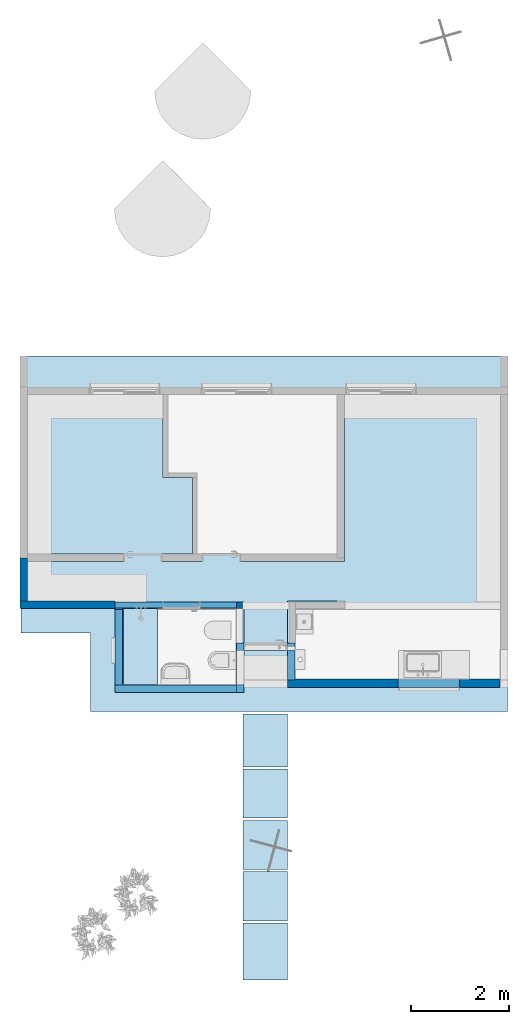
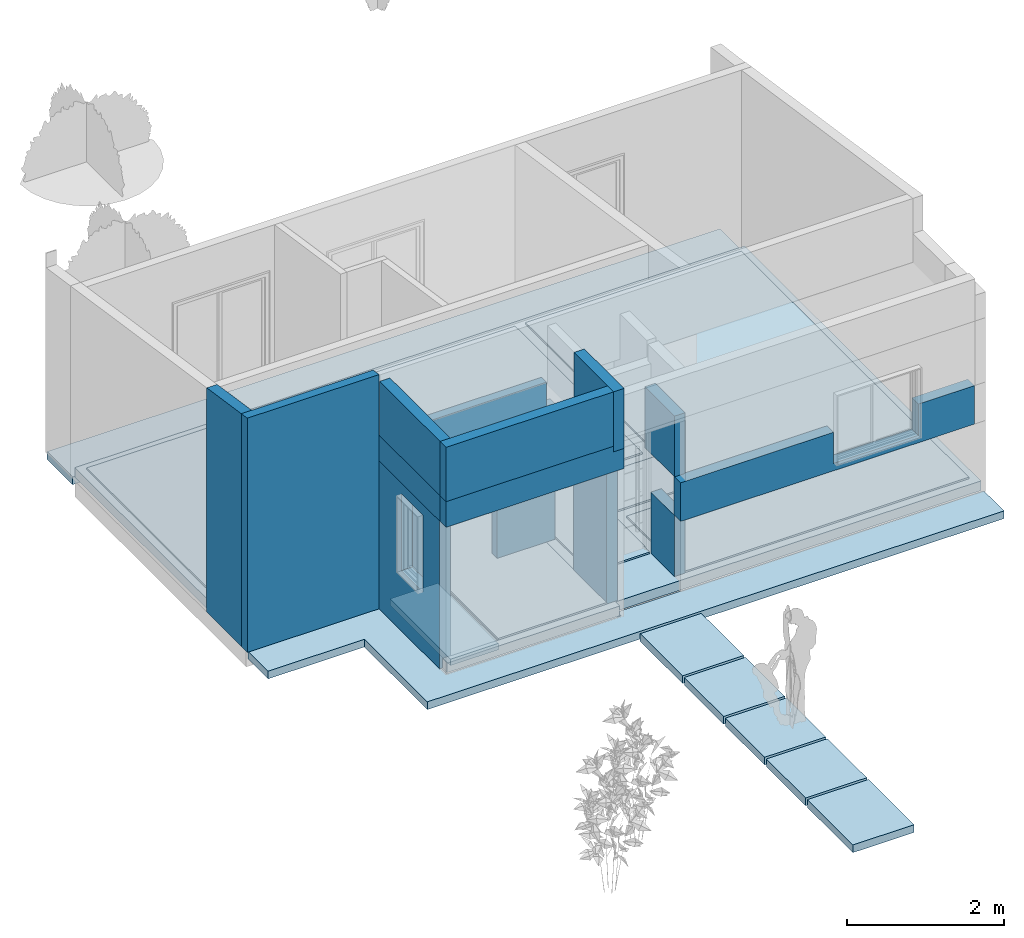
# One storey, part 1 of 8: 14 walls, 11 slabs, 5 openings.
"""IFC2X3 building model written with IfcOpenShell, lengths in metres."""

from ifc_helpers import new_model, entity, si_unit, converted_unit, derived_unit, direction, frame, frame_2d, origin, origin_2d_with_axis, place, context, subcontext, project, spatial, polyline, rectangle, outline, extrude, clip, bounded_halfspace, material, layer, layer_set, layer_usage, type_object, element, save


model = new_model("IFC2X3")

# Units and contexts
model_context = context("Model", 3, precision=1e-05, world=origin(), true_north=direction((6.12303176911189e-17, 1.0)))
body_context = subcontext(model_context, "Body", "Model", "MODEL_VIEW")
ifc_project = project(units=[si_unit("LENGTHUNIT", "METRE"), si_unit("AREAUNIT", "SQUARE_METRE"), si_unit("VOLUMEUNIT", "CUBIC_METRE"), converted_unit("PLANEANGLEUNIT", "DEGREE", entity("IfcRatioMeasure", 0.0174532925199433), si_unit("PLANEANGLEUNIT", "RADIAN"), dimensions=[0, 0, 0, 0, 0, 0, 0]), si_unit("MASSUNIT", "GRAM", prefix="KILO"), derived_unit("MASSDENSITYUNIT", [(si_unit("MASSUNIT", "GRAM", prefix="KILO"), 1), (si_unit("LENGTHUNIT", "METRE"), -3)]), si_unit("TIMEUNIT", "SECOND"), si_unit("FREQUENCYUNIT", "HERTZ"), si_unit("THERMODYNAMICTEMPERATUREUNIT", "DEGREE_CELSIUS"), derived_unit("THERMALTRANSMITTANCEUNIT", [(si_unit("MASSUNIT", "GRAM", prefix="KILO"), 1), (si_unit("THERMODYNAMICTEMPERATUREUNIT", "KELVIN"), -1), (si_unit("TIMEUNIT", "SECOND"), -3)]), derived_unit("VOLUMETRICFLOWRATEUNIT", [(si_unit("LENGTHUNIT", "METRE"), 3), (si_unit("TIMEUNIT", "SECOND"), -1)]), si_unit("ELECTRICCURRENTUNIT", "AMPERE"), si_unit("ELECTRICVOLTAGEUNIT", "VOLT"), si_unit("POWERUNIT", "WATT"), si_unit("FORCEUNIT", "NEWTON", prefix="KILO"), si_unit("ILLUMINANCEUNIT", "LUX"), si_unit("LUMINOUSFLUXUNIT", "LUMEN"), si_unit("LUMINOUSINTENSITYUNIT", "CANDELA"), derived_unit("USERDEFINED", [(si_unit("MASSUNIT", "GRAM", prefix="KILO"), -1), (si_unit("LENGTHUNIT", "METRE"), -2), (si_unit("TIMEUNIT", "SECOND"), 3), (si_unit("LUMINOUSFLUXUNIT", "LUMEN"), 1)]), derived_unit("LINEARVELOCITYUNIT", [(si_unit("LENGTHUNIT", "METRE"), 1), (si_unit("TIMEUNIT", "SECOND"), -1)]), si_unit("PRESSUREUNIT", "PASCAL"), derived_unit("USERDEFINED", [(si_unit("LENGTHUNIT", "METRE"), -2), (si_unit("MASSUNIT", "GRAM", prefix="KILO"), 1), (si_unit("TIMEUNIT", "SECOND"), -2)])], contexts=[model_context])

# Site, building, storey
site_placement = place(None, origin())
site = spatial("IfcSite", under=ifc_project, at=site_placement, Name="Surface", CompositionType="ELEMENT")
building_placement = place(site_placement, origin())
building = spatial("IfcBuilding", under=site, at=building_placement, CompositionType="ELEMENT")
storey_placement = place(building_placement, origin())
storey = spatial("IfcBuildingStorey", under=building, at=storey_placement, Name="Nivel 0.0", CompositionType="ELEMENT", Elevation=0.0)

# Slabs
ifc_material_1 = material(Name="Hormigón Armado veredines")
ifc_layer_1 = layer(ifc_material_1, 0.12)
ifc_layer_set_1 = layer_set([ifc_layer_1], Name="Floor:Vereda de acceso")
ifc_layer_usage_1 = layer_usage(ifc_layer_set_1, "AXIS3", "POSITIVE", 0.0)
slab_type_1 = type_object("IfcSlabType", Name="Floor:Vereda de acceso", PredefinedType="FLOOR")
slab_1_placement = place(storey_placement, frame((-4.45239657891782, -9.37555428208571, -0.295816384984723)))
element("IfcSlab", 1, at=slab_1_placement, inside=storey, type_object=slab_type_1, material=ifc_layer_usage_1, Name="Floor:Vereda de acceso", ObjectType="Floor:Vereda de acceso", PredefinedType="FLOOR", context=body_context, shape_type="SweptSolid", body=[
    extrude(rectangle(XDim=1.08170587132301, YDim=0.899499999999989, at=frame_2d((0.0, 2.16863474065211), x_axis=(0.0, -1.0))), frame((0.449749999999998, 2.70948767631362, 0.12), z_axis=(0.0, 0.0, -1.0), x_axis=(-1.0, 0.0, 0.0)), (0.0, 0.0, 1.0), 0.12),
])
slab_type_2 = type_object("IfcSlabType", Name="Floor:Vereda de acceso", PredefinedType="FLOOR")
slab_2_placement = place(storey_placement, frame((-4.45239657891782, -9.37555428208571, -0.295816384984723)))
element("IfcSlab", 2, at=slab_2_placement, inside=storey, type_object=slab_type_2, material=ifc_layer_usage_1, Name="Floor:Vereda de acceso:2", ObjectType="Floor:Vereda de acceso", PredefinedType="FLOOR", context=body_context, shape_type="SweptSolid", body=[
    extrude(rectangle(XDim=1.00170587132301, YDim=0.899499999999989, at=frame_2d((0.0, 1.08431737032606), x_axis=(0.0, -1.0))), frame((0.449749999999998, 2.70948767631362, 0.12), z_axis=(0.0, 0.0, -1.0), x_axis=(-1.0, 0.0, 0.0)), (0.0, 0.0, 1.0), 0.12),
])
slab_type_3 = type_object("IfcSlabType", Name="Floor:Vereda de acceso", PredefinedType="FLOOR")
slab_3_placement = place(storey_placement, frame((-4.45239657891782, -9.37555428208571, -0.295816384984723)))
element("IfcSlab", 3, at=slab_3_placement, inside=storey, type_object=slab_type_3, material=ifc_layer_usage_1, Name="Floor:Vereda de acceso:3", ObjectType="Floor:Vereda de acceso", PredefinedType="FLOOR", context=body_context, shape_type="SweptSolid", body=[
    extrude(rectangle(XDim=1.00170587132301, YDim=0.899499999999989, at=frame_2d((0.0, 0.0399999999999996), x_axis=(0.0, -1.0))), frame((0.449749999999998, 2.70948767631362, 0.12), z_axis=(0.0, 0.0, -1.0), x_axis=(-1.0, 0.0, 0.0)), (0.0, 0.0, 1.0), 0.12),
])
slab_type_4 = type_object("IfcSlabType", Name="Floor:Vereda de acceso", PredefinedType="FLOOR")
slab_4_placement = place(storey_placement, frame((-4.45239657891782, -9.37555428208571, -0.295816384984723)))
element("IfcSlab", 4, at=slab_4_placement, inside=storey, type_object=slab_type_4, material=ifc_layer_usage_1, Name="Floor:Vereda de acceso:4", ObjectType="Floor:Vereda de acceso", PredefinedType="FLOOR", context=body_context, shape_type="SweptSolid", body=[
    extrude(rectangle(XDim=1.00170587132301, YDim=0.899499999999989, at=frame_2d((0.0, -1.00431737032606), x_axis=(0.0, -1.0))), frame((0.449749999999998, 2.70948767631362, 0.12), z_axis=(0.0, 0.0, -1.0), x_axis=(-1.0, 0.0, 0.0)), (0.0, 0.0, 1.0), 0.12),
])
slab_type_5 = type_object("IfcSlabType", Name="Floor:Vereda de acceso", PredefinedType="FLOOR", material=ifc_layer_set_1)
slab_5_placement = place(storey_placement, frame((-4.45239657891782, -9.37555428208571, -0.295816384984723)))
element("IfcSlab", 5, at=slab_5_placement, inside=storey, type_object=slab_type_5, material=ifc_layer_usage_1, Name="Floor:Vereda de acceso:5", ObjectType="Floor:Vereda de acceso", PredefinedType="FLOOR", context=body_context, shape_type="SweptSolid", body=[
    extrude(rectangle(XDim=1.16170587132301, YDim=0.899499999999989, at=frame_2d((0.0, -2.12863474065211), x_axis=(0.0, -1.0))), frame((0.449749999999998, 2.70948767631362, 0.12), z_axis=(0.0, 0.0, -1.0), x_axis=(-1.0, 0.0, 0.0)), (0.0, 0.0, 1.0), 0.12),
])

# Slab, opening
ifc_material_2 = material(Name="Concrete, Cast In Situ")
ifc_layer_2 = layer(ifc_material_2, 0.15)
ifc_layer_set_2 = layer_set([ifc_layer_2], Name="Floor:Platea de fundación")
ifc_layer_usage_2 = layer_usage(ifc_layer_set_2, "AXIS3", "POSITIVE", 0.0)
slab_type_6 = type_object("IfcSlabType", Name="Floor:Platea de fundación", PredefinedType="FLOOR", material=ifc_layer_set_2)
slab_6_placement = place(storey_placement, frame((-8.95308547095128, -3.48078532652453, -0.175)))
slab_6 = element("IfcSlab", 6, at=slab_6_placement, inside=storey, type_object=slab_type_6, material=ifc_layer_usage_2, Name="Floor:Platea de fundación", ObjectType="Floor:Platea de fundación", PredefinedType="FLOOR", context=body_context, shape_type="SweptSolid", body=[
    extrude(outline(polyline([(4.92400000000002, -1.30126337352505), (4.92400000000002, 3.06499999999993), (-4.92400000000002, 3.06499999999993), (-4.92400000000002, -2.96000000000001), (0.451928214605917, -2.96000000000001), (0.451928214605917, -3.06499999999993), (2.98692821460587, -3.06499999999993), (2.98692821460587, -1.30126337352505), (4.92400000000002, -1.30126337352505)])), frame((4.92400000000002, 3.06499999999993, 0.15), z_axis=(0.0, 0.0, -1.0), x_axis=(-1.0, 0.0, 0.0)), (0.0, 0.0, 1.0), 0.15),
])
opening_1_placement = place(slab_6_placement, frame((2.40565159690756, 0.890993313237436, 0.15)))
element("IfcOpeningElement", 7, at=opening_1_placement, cuts=slab_6, Name="Floor:Platea de fundación:2", ObjectType="Opening", context=body_context, shape_type="SweptSolid", body=[
    extrude(rectangle(XDim=0.702659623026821, YDim=1.54748662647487, at=origin_2d_with_axis()), frame((0.0, 0.0, 0.0), z_axis=(0.0, 0.0, -1.0), x_axis=(-1.0, 0.0, 0.0)), (0.0, 0.0, 1.0), 0.15),
])

# Slabs
ifc_layer_3 = layer(ifc_material_1, 0.12)
ifc_layer_set_3 = layer_set([ifc_layer_3], Name="Floor:Veredín perimetral")
ifc_layer_usage_3 = layer_usage(ifc_layer_set_3, "AXIS3", "POSITIVE", 0.0)
slab_type_7 = type_object("IfcSlabType", Name="Floor:Veredín perimetral", PredefinedType="FLOOR")
slab_7_placement = place(storey_placement, frame((-8.97358547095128, -3.91428532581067, -0.295)))
element("IfcSlab", 8, at=slab_7_placement, inside=storey, type_object=slab_type_7, material=ifc_layer_usage_3, Name="Floor:Veredín perimetral", ObjectType="Floor:Veredín perimetral", PredefinedType="FLOOR", context=body_context, shape_type="SweptSolid", body=[
    extrude(outline(polyline([(3.00517821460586, -1.49808207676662), (3.00517821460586, -3.1985687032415), (0.441178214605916, -3.1985687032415), (0.441178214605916, -3.09956870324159), (-4.94825000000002, -3.09956870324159), (-4.94825000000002, -3.61756870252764), (3.53317821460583, -3.61756870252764), (3.53317821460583, -2.01358207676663), (4.94825000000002, -2.01358207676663), (4.94825000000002, -1.49808207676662), (3.00517821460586, -1.49808207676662)])), frame((4.94825000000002, 3.61756870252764, 0.12), z_axis=(0.0, 0.0, -1.0), x_axis=(-1.0, 0.0, 0.0)), (0.0, 0.0, 1.0), 0.12),
])
slab_type_8 = type_object("IfcSlabType", Name="Floor:Veredín perimetral", PredefinedType="FLOOR", material=ifc_layer_set_3)
slab_8_placement = place(storey_placement, frame((-8.97358547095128, -3.91428532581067, -0.295)))
element("IfcSlab", 9, at=slab_8_placement, inside=storey, type_object=slab_type_8, material=ifc_layer_usage_3, Name="Floor:Veredín perimetral:2", ObjectType="Floor:Veredín perimetral", PredefinedType="FLOOR", context=body_context, shape_type="SweptSolid", body=[
    extrude(rectangle(XDim=0.651137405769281, YDim=9.89650000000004, at=frame_2d((0.0, 3.291999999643), x_axis=(0.0, -1.0))), frame((4.94825000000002, 3.61756870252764, 0.12), z_axis=(0.0, 0.0, -1.0), x_axis=(-1.0, 0.0, 0.0)), (0.0, 0.0, 1.0), 0.12),
])
ifc_material_3 = material(Name="Ceramic Tile")
ifc_layer_4 = layer(ifc_material_3, 0.01)
ifc_material_4 = material(Name="Concrete, Sand/Cement Screed")
ifc_layer_5 = layer(ifc_material_4, 0.015)
ifc_layer_set_4 = layer_set([ifc_layer_4, ifc_layer_5], Name="Floor:Piso Cerámico")
ifc_layer_usage_4 = layer_usage(ifc_layer_set_4, "AXIS3", "POSITIVE", 0.0)
slab_type_9 = type_object("IfcSlabType", Name="Floor:Piso Cerámico", PredefinedType="FLOOR", material=ifc_layer_set_4)
slab_9_placement = place(storey_placement, origin())
element("IfcSlab", 10, at=slab_9_placement, inside=storey, type_object=slab_type_9, material=ifc_layer_usage_4, Name="Floor:Piso Cerámico", ObjectType="Floor:Piso Cerámico", PredefinedType="FLOOR", context=body_context, shape_type="SweptSolid", body=[
    extrude(outline(polyline([(-0.774524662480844, -3.99186514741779), (0.0455518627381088, -3.99186514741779), (0.0455518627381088, -2.03636527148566), (0.200051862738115, -2.03636527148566), (0.200051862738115, -3.99186514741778), (3.44273871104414, -3.99186514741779), (3.44273871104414, -1.23111527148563), (1.75648842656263, -1.23111527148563), (1.75648842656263, -0.633615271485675), (0.200051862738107, -0.633615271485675), (0.200051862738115, -1.25636527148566), (0.0455518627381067, -1.25636527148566), (0.0455518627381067, -0.436365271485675), (0.200051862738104, -0.436365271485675), (0.200051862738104, -0.539115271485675), (1.85098842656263, -0.539115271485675), (1.85098842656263, -1.13661527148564), (3.44273871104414, -1.13661527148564), (3.44273871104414, 2.30750183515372), (0.200051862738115, 2.30750183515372), (0.200051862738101, 0.343634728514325), (0.0455518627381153, 0.343634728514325), (0.0455518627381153, 2.46200183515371), (3.44273871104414, 2.46200183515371), (3.44273871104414, 5.63513485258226), (-2.3530112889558, 5.63513485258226), (-2.3530112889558, 1.42795663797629), (-0.921774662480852, 1.42795663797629), (-0.921774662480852, 2.46200183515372), (-0.751774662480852, 2.46200183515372), (-0.751774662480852, 1.29545663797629), (-1.61437849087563, 1.29545663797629), (-1.61437849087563, 1.2832066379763), (-1.76087849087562, 1.2832066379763), (-1.76087849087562, 0.433206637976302), (-1.61437849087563, 0.433206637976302), (-1.61437849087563, 0.412206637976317), (-0.774524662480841, 0.412206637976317), (-0.774524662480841, -0.46912680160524), (-0.911024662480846, -0.46912680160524), (-0.911024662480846, 0.254616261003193), (-2.45851128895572, 0.254616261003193), (-2.45851128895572, -1.34538373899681), (-0.937774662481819, -1.34538373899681), (-0.937774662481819, -1.24912680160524), (-0.774524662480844, -1.24912680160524), (-0.774524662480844, -3.99186514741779)])), frame((-4.85072032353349, -0.905024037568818, 0.0), z_axis=(0.0, 0.0, -1.0), x_axis=(0.0, 1.0, 0.0)), (0.0, 0.0, 1.0), 0.025),
])
ifc_layer_6 = layer(ifc_material_2, 0.1)
ifc_layer_set_5 = layer_set([ifc_layer_6], Name="Floor:Platea de fundación, receptaculo baño")
ifc_layer_usage_5 = layer_usage(ifc_layer_set_5, "AXIS3", "POSITIVE", 0.0)
slab_type_10 = type_object("IfcSlabType", Name="Floor:Platea de fundación, receptaculo baño", PredefinedType="FLOOR", material=ifc_layer_set_5)
slab_10_placement = place(storey_placement, origin())
element("IfcSlab", 11, at=slab_10_placement, inside=storey, type_object=slab_type_10, material=ifc_layer_usage_5, Name="Floor:Platea de fundación, receptaculo baño", ObjectType="Floor:Platea de fundación, receptaculo baño", PredefinedType="FLOOR", context=body_context, shape_type="SweptSolid", body=[
    extrude(rectangle(XDim=1.54748662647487, YDim=0.702659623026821, at=frame_2d((-2.77555756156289e-16, 5.55111512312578e-16), x_axis=(1.0, 0.0))), frame((-6.54743387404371, -2.5897920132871, -0.0758163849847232), z_axis=(0.0, 0.0, -1.0), x_axis=(0.0, 1.0, 0.0)), (0.0, 0.0, 1.0), 0.1),
])
ifc_layer_usage_6 = layer_usage(ifc_layer_set_4, "AXIS3", "POSITIVE", 0.0)
slab_type_11 = type_object("IfcSlabType", Name="Floor:Piso Cerámico", PredefinedType="FLOOR", material=ifc_layer_set_4)
slab_11_placement = place(storey_placement, origin())
element("IfcSlab", 12, at=slab_11_placement, inside=storey, type_object=slab_type_11, material=ifc_layer_usage_6, Name="Floor:Piso Cerámico", ObjectType="Floor:Piso Cerámico", PredefinedType="FLOOR", context=body_context, shape_type="SweptSolid", body=[
    extrude(rectangle(XDim=1.54748662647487, YDim=0.702659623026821, at=frame_2d((-2.77555756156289e-16, 5.55111512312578e-16), x_axis=(1.0, 0.0))), frame((-6.54743387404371, -2.5897920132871, -0.0508163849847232), z_axis=(0.0, 0.0, -1.0), x_axis=(0.0, 1.0, 0.0)), (0.0, 0.0, 1.0), 0.025),
])

# Walls
ifc_material_5 = material(Name="Placa cementicia")
ifc_layer_7 = layer(ifc_material_5, 0.0125)
ifc_material_6 = material(Name="Bastidor metálico")
ifc_layer_8 = layer(ifc_material_6, 0.03)
ifc_material_7 = material(Name="OSB")
ifc_layer_9 = layer(ifc_material_7, 0.011)
ifc_material_8 = material(Name="Poliestireno expandido")
ifc_layer_10 = layer(ifc_material_8, 0.046)
ifc_layer_11 = layer(ifc_material_7, 0.011)
ifc_layer_12 = layer(ifc_material_6, 0.03)
ifc_material_9 = material(Name="Placa roca de Yeso 12,5mm")
ifc_layer_13 = layer(ifc_material_9, 0.0125)
ifc_layer_set_6 = layer_set([ifc_layer_7, ifc_layer_8, ifc_layer_9, ifc_layer_10, ifc_layer_11, ifc_layer_12, ifc_layer_13], Name="Basic Wall:Pe-NW-002")
ifc_layer_usage_7 = layer_usage(ifc_layer_set_6, "AXIS2", "POSITIVE", -0.0765)
wall_type_1 = type_object("IfcWallType", Name="Basic Wall:Pe-NW-002", PredefinedType="STANDARD", material=ifc_layer_set_6)
wall_1_placement = place(storey_placement, frame((-8.99558547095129, -1.74104870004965, -0.175)))
element("IfcWallStandardCase", 13, at=wall_1_placement, inside=storey, type_object=wall_type_1, material=ifc_layer_usage_7, Name="Basic Wall:Pe-NW-002", ObjectType="Basic Wall:Pe-NW-002", context=body_context, shape_type="Clipping", body=[
    clip(extrude(rectangle(XDim=1.93757178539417, YDim=0.153, at=frame_2d((0.968785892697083, 1.2490009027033e-16), x_axis=(-1.0, 0.0))), origin(), (0.0, 0.0, 1.0), 3.64243123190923), bounded_halfspace(frame((0.0, -0.0764999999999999, 3.64243123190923), z_axis=(0.0, 0.148340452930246, 0.988936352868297), x_axis=(-1.0, 0.0, 0.0)), False, frame((0.0, -0.0764999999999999, 3.64243123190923)), polyline([(0.0, 0.0), (1.93757178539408, 0.0), (1.93757178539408, 0.153), (0.152999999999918, 0.153), (0.0, 0.153), (0.0, 0.0)]))),
])
ifc_layer_usage_8 = layer_usage(ifc_layer_set_6, "AXIS2", "POSITIVE", -0.0765)
wall_2_placement = place(storey_placement, frame((-3.47151368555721, -2.51290252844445, 1.525), z_axis=(0.0, 0.0, 1.0), x_axis=(0.0, -1.0, 0.0)))
element("IfcWallStandardCase", 14, at=wall_2_placement, inside=storey, type_object=wall_type_1, material=ifc_layer_usage_8, Name="Basic Wall:Pe-NW-002", ObjectType="Basic Wall:Pe-NW-002", context=body_context, shape_type="Clipping", body=[
    clip(extrude(rectangle(XDim=0.752382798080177, YDim=0.153, at=frame_2d((0.376191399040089, 0.0), x_axis=(-1.0, 0.0))), origin(), (0.0, 0.0, 1.0), 0.94499999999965), bounded_halfspace(frame((0.0, -0.0765000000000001, 0.94499999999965), z_axis=(0.0, 0.0, 1.0), x_axis=(0.0, 1.0, 0.0)), False, frame((0.0, -0.0765000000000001, 0.94499999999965), z_axis=(0.0, 0.0, 1.0), x_axis=(0.0, 1.0, 0.0)), polyline([(0.0, 0.0), (0.0, -0.752382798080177), (0.152999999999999, -0.752382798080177), (0.153, 0.0), (0.0, 0.0)]))),
])
ifc_layer_usage_9 = layer_usage(ifc_layer_set_6, "AXIS2", "POSITIVE", -0.0765)
wall_3_placement = place(storey_placement, frame((-8.91908547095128, -0.782222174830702, -0.175), z_axis=(0.0, 0.0, 1.0), x_axis=(0.0, -1.0, 0.0)))
element("IfcWallStandardCase", 15, at=wall_3_placement, inside=storey, type_object=wall_type_1, material=ifc_layer_usage_9, Name="Basic Wall:Pe-NW-002", ObjectType="Basic Wall:Pe-NW-002", context=body_context, shape_type="Clipping", body=[
    clip(clip(clip(extrude(rectangle(XDim=0.88232652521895, YDim=0.153, at=frame_2d((0.441163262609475, -3.2612801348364e-16), x_axis=(-1.0, 0.0))), origin(), (0.0, 0.0, 1.0), 3.61948123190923), bounded_halfspace(frame((0.0, -0.0764999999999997, 3.48713225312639), z_axis=(-0.148340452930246, 0.0, 0.988936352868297), x_axis=(0.0, -1.0, 0.0)), False, frame((0.0, -0.0764999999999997, 3.48713225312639)), polyline([(0.0, 0.0), (0.88232652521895, 0.0), (0.88232652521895, 0.152999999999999), (0.07725, 0.152999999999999), (0.0, 0.153), (0.0, 0.0)]))), bounded_halfspace(frame((0.88232652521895, -0.0339999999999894, 0.15)), True, frame((0.88232652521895, -0.0339999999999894, 0.15)), polyline([(0.0, 0.0), (0.0, 0.110499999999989), (-0.88232652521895, 0.110499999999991), (-0.88232652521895, 0.0), (0.0, 0.0)]))), bounded_halfspace(frame((0.0, -0.0339999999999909, 0.15), z_axis=(0.0, -1.0, 0.0), x_axis=(0.0, 0.0, 1.0)), True, frame((0.0, -0.0339999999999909, 0.15), z_axis=(0.0, -1.0, 0.0), x_axis=(0.0, 0.0, 1.0)), polyline([(0.0, 0.0), (-0.15, 0.0), (-0.15, -0.88232652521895), (0.0, -0.88232652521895), (0.0, 0.0)]))),
])
ifc_layer_usage_10 = layer_usage(ifc_layer_set_6, "AXIS2", "POSITIVE", -0.0765)
wall_4_placement = place(storey_placement, frame((-3.47151368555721, -2.66590252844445, -0.175), z_axis=(0.0, 0.0, 1.0), x_axis=(0.0, -1.0, 0.0)))
element("IfcWallStandardCase", 16, at=wall_4_placement, inside=storey, type_object=wall_type_1, material=ifc_layer_usage_10, Name="Basic Wall:Pe-NW-002", ObjectType="Basic Wall:Pe-NW-002", context=body_context, shape_type="SweptSolid", body=[
    extrude(rectangle(XDim=0.599382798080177, YDim=0.153, at=frame_2d((0.299691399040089, -1.04083408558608e-16), x_axis=(-1.0, 0.0))), origin(), (0.0, 0.0, 1.0), 1.1),
])

# Wall, opening
ifc_material_10 = material(Name="Revestimiento exterior  tipo siding")
ifc_layer_14 = layer(ifc_material_10, 0.012)
ifc_layer_15 = layer(ifc_material_6, 0.03)
ifc_layer_16 = layer(ifc_material_7, 0.011)
ifc_layer_17 = layer(ifc_material_8, 0.046)
ifc_layer_18 = layer(ifc_material_7, 0.011)
ifc_layer_19 = layer(ifc_material_6, 0.03)
ifc_layer_20 = layer(ifc_material_9, 0.012)
ifc_material_11 = material(Name="Revestimiento Cerámico muro")
ifc_layer_21 = layer(ifc_material_11, 0.012)
ifc_layer_set_7 = layer_set([ifc_layer_14, ifc_layer_15, ifc_layer_16, ifc_layer_17, ifc_layer_18, ifc_layer_19, ifc_layer_20, ifc_layer_21], Name="Basic Wall:Pe-NW-006")
ifc_layer_usage_11 = layer_usage(ifc_layer_set_7, "AXIS2", "POSITIVE", -0.082)
wall_type_2 = type_object("IfcWallType", Name="Basic Wall:Pe-NW-006", PredefinedType="STANDARD", material=ifc_layer_set_7)
wall_5_placement = place(storey_placement, frame((-4.52101368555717, -3.35878532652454, -0.262609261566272), z_axis=(0.0, 0.0, 1.0), x_axis=(0.0, 1.0, 0.0)))
wall_5 = element("IfcWallStandardCase", 17, at=wall_5_placement, inside=storey, type_object=wall_type_2, material=ifc_layer_usage_11, Name="Basic Wall:Pe-NW-006", ObjectType="Basic Wall:Pe-NW-006", context=body_context, shape_type="SweptSolid", body=[
    extrude(rectangle(XDim=0.845882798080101, YDim=0.164, at=frame_2d((0.422941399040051, -1.59594559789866e-16), x_axis=(-1.0, 0.0))), origin(), (0.0, 0.0, 1.0), 2.3),
])
opening_2_placement = place(storey_placement, frame((-4.52101368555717, -3.35878532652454, -0.262609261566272), z_axis=(0.0, 0.0, 1.0), x_axis=(0.0, 1.0, 0.0)))
element("IfcOpeningElement", 18, at=opening_2_placement, cuts=wall_5, Name="Basic Wall:Pe-NW-006:1", ObjectType="Opening", context=body_context, shape_type="SweptSolid", body=[
    extrude(rectangle(XDim=0.845882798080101, YDim=0.164, at=frame_2d((0.0, 2.70616862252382e-16), x_axis=(1.0, 0.0))), frame((0.422941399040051, 0.0, 0.0876092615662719)), (0.0, 0.0, 1.0), 0.15),
])

ifc_layer_usage_12 = layer_usage(ifc_layer_set_7, "AXIS2", "POSITIVE", -0.082)
wall_6_placement = place(storey_placement, frame((-6.97601368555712, -1.81604870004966, -0.175), z_axis=(0.0, 0.0, 1.0), x_axis=(0.0, -1.0, 0.0)))
wall_6 = element("IfcWallStandardCase", 19, at=wall_6_placement, inside=storey, type_object=wall_type_2, material=ifc_layer_usage_12, Name="Basic Wall:Pe-NW-006", ObjectType="Basic Wall:Pe-NW-006", context=body_context, shape_type="Clipping", body=[
    clip(extrude(rectangle(XDim=1.54273662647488, YDim=0.164, at=frame_2d((0.771368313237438, -1.31838984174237e-16), x_axis=(-1.0, 0.0))), origin(), (0.0, 0.0, 1.0), 2.3), bounded_halfspace(frame((1.54273662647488, -0.0399999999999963, 0.15)), True, frame((1.54273662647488, -0.0399999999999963, 0.15)), polyline([(0.0, 0.0), (0.0, 0.117249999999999), (-1.54273662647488, 0.117249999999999), (-1.54273662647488, 0.0), (0.0, 0.0)]))),
])
opening_3_placement = place(wall_6_placement, frame((1.11817744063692, 0.0819999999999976, 0.937)))
element("IfcOpeningElement", 20, at=opening_3_placement, cuts=wall_6, Name="Ventana batiente horizontal V2:V2:1", ObjectType="Opening", context=body_context, shape_type="SweptSolid", body=[
    extrude(rectangle(XDim=1.2, YDim=0.549999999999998, at=frame_2d((0.6, 0.274999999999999), x_axis=(1.0, 0.0))), frame((0.0, 0.0, 0.0), z_axis=(0.0, -1.0, 0.0), x_axis=(0.0, 0.0, 1.0)), (0.0, 0.0, 1.0), 0.164),
])

# Walls
ifc_layer_22 = layer(ifc_material_10, 0.012)
ifc_layer_23 = layer(ifc_material_6, 0.03)
ifc_layer_24 = layer(ifc_material_7, 0.011)
ifc_layer_25 = layer(ifc_material_8, 0.046)
ifc_layer_26 = layer(ifc_material_7, 0.011)
ifc_layer_27 = layer(ifc_material_6, 0.03)
ifc_layer_28 = layer(ifc_material_5, 0.012)
ifc_layer_set_8 = layer_set([ifc_layer_22, ifc_layer_23, ifc_layer_24, ifc_layer_25, ifc_layer_26, ifc_layer_27, ifc_layer_28], Name="Basic Wall:Pe-NW-004")
ifc_layer_usage_13 = layer_usage(ifc_layer_set_8, "AXIS2", "POSITIVE", -0.076)
wall_type_3 = type_object("IfcWallType", Name="Basic Wall:Pe-NW-004", PredefinedType="STANDARD", material=ifc_layer_set_8)
wall_7_placement = place(storey_placement, frame((-7.05801368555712, -3.44678532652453, 2.525)))
element("IfcWallStandardCase", 21, at=wall_7_placement, inside=storey, type_object=wall_type_3, material=ifc_layer_usage_13, Name="Basic Wall:Pe-NW-004", ObjectType="Basic Wall:Pe-NW-004", context=body_context, shape_type="SweptSolid", body=[
    extrude(rectangle(XDim=2.46699999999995, YDim=0.152, at=frame_2d((1.23349999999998, -1.73472347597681e-16), x_axis=(-1.0, 0.0))), origin(), (0.0, 0.0, 1.0), 0.845),
])
ifc_layer_usage_14 = layer_usage(ifc_layer_set_8, "AXIS2", "POSITIVE", -0.076)
wall_8_placement = place(storey_placement, frame((-4.51501368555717, -3.52278532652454, 2.43739073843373), z_axis=(0.0, 0.0, 1.0), x_axis=(0.0, 1.0, 0.0)))
element("IfcWallStandardCase", 22, at=wall_8_placement, inside=storey, type_object=wall_type_3, material=ifc_layer_usage_14, Name="Basic Wall:Pe-NW-004", ObjectType="Basic Wall:Pe-NW-004", context=body_context, shape_type="SweptSolid", body=[
    extrude(rectangle(XDim=1.0098827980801, YDim=0.152, at=frame_2d((0.504941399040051, -3.46944695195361e-17), x_axis=(-1.0, 0.0))), origin(), (0.0, 0.0, 1.0), 0.932609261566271),
])
ifc_layer_usage_15 = layer_usage(ifc_layer_set_8, "AXIS2", "POSITIVE", -0.076)
wall_9_placement = place(storey_placement, frame((-6.98201368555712, -1.83204870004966, 2.525), z_axis=(0.0, 0.0, 1.0), x_axis=(0.0, -1.0, 0.0)))
element("IfcWallStandardCase", 23, at=wall_9_placement, inside=storey, type_object=wall_type_3, material=ifc_layer_usage_15, Name="Basic Wall:Pe-NW-004", ObjectType="Basic Wall:Pe-NW-004", context=body_context, shape_type="SweptSolid", body=[
    extrude(rectangle(XDim=1.53873662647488, YDim=0.152, at=frame_2d((0.769368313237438, -1.38777878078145e-16), x_axis=(-1.0, 0.0))), origin(), (0.0, 0.0, 1.0), 0.845000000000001),
])

# Wall, opening
ifc_layer_29 = layer(ifc_material_5, 0.0125)
ifc_layer_30 = layer(ifc_material_6, 0.03)
ifc_layer_31 = layer(ifc_material_7, 0.011)
ifc_layer_32 = layer(ifc_material_8, 0.046)
ifc_layer_33 = layer(ifc_material_7, 0.011)
ifc_layer_34 = layer(ifc_material_6, 0.03)
ifc_layer_35 = layer(ifc_material_9, 0.012)
ifc_layer_36 = layer(ifc_material_11, 0.012)
ifc_layer_set_9 = layer_set([ifc_layer_29, ifc_layer_30, ifc_layer_31, ifc_layer_32, ifc_layer_33, ifc_layer_34, ifc_layer_35, ifc_layer_36], Name="Basic Wall:Pe-NW-003")
ifc_layer_usage_16 = layer_usage(ifc_layer_set_9, "AXIS2", "POSITIVE", -0.08225)
wall_type_4 = type_object("IfcWallType", Name="Basic Wall:Pe-NW-003", PredefinedType="STANDARD", material=ifc_layer_set_9)
wall_10_placement = place(storey_placement, frame((-3.54801368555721, -3.33603532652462, 0.925)))
wall_10 = element("IfcWallStandardCase", 24, at=wall_10_placement, inside=storey, type_object=wall_type_4, material=ifc_layer_usage_16, Name="Basic Wall:Pe-NW-003", ObjectType="Basic Wall:Pe-NW-003", context=body_context, shape_type="SweptSolid", body=[
    extrude(rectangle(XDim=4.32092821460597, YDim=0.164500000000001, at=frame_2d((2.16046410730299, 6.93889390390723e-18), x_axis=(-1.0, 0.0))), origin(), (0.0, 0.0, 1.0), 0.6),
])
opening_4_placement = place(wall_10_placement, frame((3.49745223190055, 0.0822499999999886, 0.115)))
element("IfcOpeningElement", 25, at=opening_4_placement, cuts=wall_10, Name="Ventana1,20x1.20:V1:1", ObjectType="Opening", context=body_context, shape_type="SweptSolid", body=[
    extrude(rectangle(XDim=1.1, YDim=1.25, at=frame_2d((0.55, 0.624999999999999), x_axis=(1.0, 0.0))), frame((0.0, 0.0, 0.0), z_axis=(0.0, -1.0, 0.0), x_axis=(0.0, 0.0, 1.0)), (0.0, 0.0, 1.0), 0.1645),
])

ifc_layer_37 = layer(ifc_material_9, 0.0125)
ifc_layer_38 = layer(ifc_material_7, 0.012)
ifc_layer_39 = layer(ifc_material_8, 0.046)
ifc_layer_40 = layer(ifc_material_7, 0.012)
ifc_layer_41 = layer(ifc_material_6, 0.03)
ifc_layer_42 = layer(ifc_material_9, 0.012)
ifc_layer_43 = layer(ifc_material_11, 0.012)
ifc_layer_set_10 = layer_set([ifc_layer_37, ifc_layer_38, ifc_layer_39, ifc_layer_40, ifc_layer_41, ifc_layer_42, ifc_layer_43], Name="Basic Wall:Pi-NW-053")
ifc_layer_usage_17 = layer_usage(ifc_layer_set_10, "AXIS2", "NEGATIVE", 0.06825)
wall_type_5 = type_object("IfcWallType", Name="Basic Wall:Pi-NW-053", PredefinedType="STANDARD", material=ifc_layer_set_10)
wall_11_placement = place(storey_placement, frame((-7.05801368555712, -1.74779870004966, 0.0)))
wall_11 = element("IfcWallStandardCase", 26, at=wall_11_placement, inside=storey, type_object=wall_type_5, material=ifc_layer_usage_17, Name="Basic Wall:Pi-NW-053", ObjectType="Basic Wall:Pi-NW-053", context=body_context, shape_type="SweptSolid", body=[
    extrude(rectangle(XDim=2.59149999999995, YDim=0.1365, at=frame_2d((1.29574999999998, 2.77555756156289e-17), x_axis=(-1.0, 0.0))), origin(), (0.0, 0.0, 1.0), 2.1),
])
opening_5_placement = place(wall_11_placement, frame((1.73816656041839, 0.0682499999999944, -0.000816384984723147)))
element("IfcOpeningElement", 27, at=opening_5_placement, cuts=wall_11, Name="Puerta Interior:P3:1", ObjectType="Opening", context=body_context, shape_type="SweptSolid", body=[
    extrude(rectangle(XDim=2.1, YDim=0.78, at=frame_2d((1.05, 0.39), x_axis=(1.0, 0.0))), frame((0.0, 0.0, 0.0), z_axis=(0.0, -1.0, 0.0), x_axis=(0.0, 0.0, 1.0)), (0.0, 0.0, 1.0), 0.1365),
])

# Walls
ifc_layer_44 = layer(ifc_material_9, 0.0125)
ifc_layer_45 = layer(ifc_material_7, 0.012)
ifc_layer_46 = layer(ifc_material_8, 0.046)
ifc_layer_47 = layer(ifc_material_7, 0.012)
ifc_layer_48 = layer(ifc_material_6, 0.03)
ifc_layer_49 = layer(ifc_material_9, 0.012)
ifc_layer_set_11 = layer_set([ifc_layer_44, ifc_layer_45, ifc_layer_46, ifc_layer_47, ifc_layer_48, ifc_layer_49], Name="Basic Wall:Pi-NW-052")
ifc_layer_usage_18 = layer_usage(ifc_layer_set_11, "AXIS2", "NEGATIVE", 0.06225)
wall_type_6 = type_object("IfcWallType", Name="Basic Wall:Pi-NW-052", PredefinedType="STANDARD", material=ifc_layer_set_11)
wall_12_placement = place(storey_placement, frame((-7.05801368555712, -1.74179870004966, 2.1)))
element("IfcWallStandardCase", 28, at=wall_12_placement, inside=storey, type_object=wall_type_6, material=ifc_layer_usage_18, Name="Basic Wall:Pi-NW-052", ObjectType="Basic Wall:Pi-NW-052", context=body_context, shape_type="SweptSolid", body=[
    extrude(rectangle(XDim=2.46699999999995, YDim=0.1245, at=frame_2d((1.23349999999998, -3.12250225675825e-17), x_axis=(-1.0, 0.0))), origin(), (0.0, 0.0, 1.0), 0.37711071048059),
])
ifc_layer_50 = layer(ifc_material_10, 0.012)
ifc_layer_51 = layer(ifc_material_6, 0.03)
ifc_layer_52 = layer(ifc_material_7, 0.011)
ifc_layer_53 = layer(ifc_material_8, 0.046)
ifc_layer_54 = layer(ifc_material_7, 0.011)
ifc_layer_55 = layer(ifc_material_6, 0.03)
ifc_layer_56 = layer(ifc_material_9, 0.012)
ifc_layer_set_12 = layer_set([ifc_layer_50, ifc_layer_51, ifc_layer_52, ifc_layer_53, ifc_layer_54, ifc_layer_55, ifc_layer_56], Name="Basic Wall:Pe-NW-005")
ifc_layer_usage_19 = layer_usage(ifc_layer_set_12, "AXIS2", "POSITIVE", -0.076)
wall_type_7 = type_object("IfcWallType", Name="Basic Wall:Pe-NW-005", PredefinedType="STANDARD", material=ifc_layer_set_12)
wall_13_placement = place(storey_placement, frame((-7.05801368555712, -3.44678532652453, 2.125)))
element("IfcWallStandardCase", 29, at=wall_13_placement, inside=storey, type_object=wall_type_7, material=ifc_layer_usage_19, Name="Basic Wall:Pe-NW-005", ObjectType="Basic Wall:Pe-NW-005", context=body_context, shape_type="SweptSolid", body=[
    extrude(rectangle(XDim=2.61899999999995, YDim=0.152, at=frame_2d((1.30949999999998, 6.93889390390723e-17), x_axis=(-1.0, 0.0))), origin(), (0.0, 0.0, 1.0), 0.4),
])
ifc_layer_usage_20 = layer_usage(ifc_layer_set_12, "AXIS2", "POSITIVE", -0.076)
wall_14_placement = place(storey_placement, frame((-6.98201368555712, -1.80404870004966, 2.125), z_axis=(0.0, 0.0, 1.0), x_axis=(0.0, -1.0, 0.0)))
element("IfcWallStandardCase", 30, at=wall_14_placement, inside=storey, type_object=wall_type_7, material=ifc_layer_usage_20, Name="Basic Wall:Pe-NW-005", ObjectType="Basic Wall:Pe-NW-005", context=body_context, shape_type="SweptSolid", body=[
    extrude(rectangle(XDim=1.56673662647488, YDim=0.152, at=frame_2d((0.783368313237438, -1.17961196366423e-16), x_axis=(-1.0, 0.0))), origin(), (0.0, 0.0, 1.0), 0.4),
])

save(model, "model.ifc")
